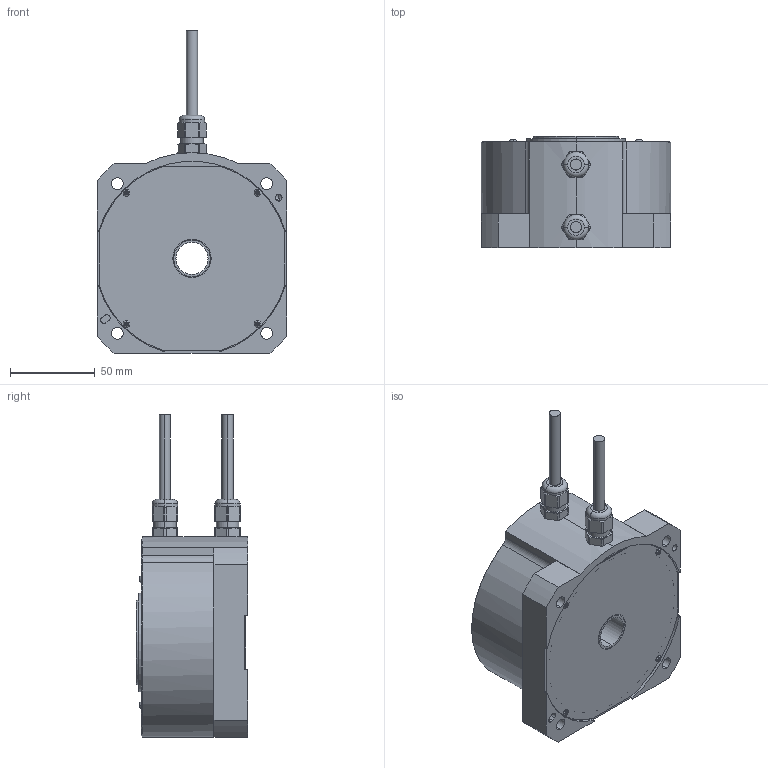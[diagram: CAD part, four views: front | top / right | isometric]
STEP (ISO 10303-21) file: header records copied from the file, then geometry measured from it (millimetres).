
FILE_DESCRIPTION (( 'STEP AP214' ), '1' );
FILE_NAME ('BZA01650.step', '2024-02-05T02:32:06', ( '' ), ( '' ), 'SwSTEP 2.0', 'SolidWorks 2023', '' );
FILE_SCHEMA (( 'AUTOMOTIVE_DESIGN' ));
Length unit declared in the file: millimetre
Products named in the file (1): BZA01650
Bounding box: 112 x 66 x 190.5 mm (x, y, z)
Volume: 228343.4 mm3; surface area: 112635.3 mm2
Topology: 14 solids, 14 shells, 600 faces, 1610 edges, 1037 vertices
Faces by surface type: cylinder 236, plane 179, cone 90, bspline 67, torus 28
Entity records: 21945 total; most frequent: CARTESIAN_POINT 7376, ORIENTED_EDGE 3120, DIRECTION 2819, EDGE_CURVE 1560, AXIS2_PLACEMENT_3D 1110, VERTEX_POINT 1037, EDGE_LOOP 685, FACE_OUTER_BOUND 600
